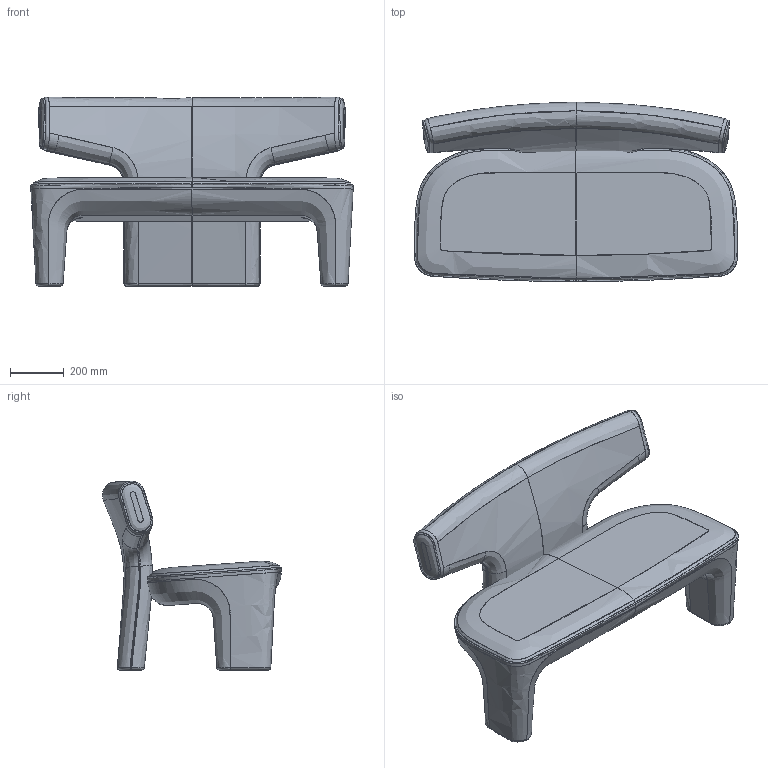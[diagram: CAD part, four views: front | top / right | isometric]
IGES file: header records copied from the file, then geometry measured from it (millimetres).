
Start section: SolidWorks IGES file using analytic representation for surfaces
Global section: file name: C:\Users\market02\Desktop\RYAN\litho modelisation\fait\PierreFrey_Delvigne_Litho_Banquette2\FLIT3CB120_CANAPE BANQUETTE_ARMLESS_LITHO.igs; native system: Rhinoceros ( Dec 14 2021 ); preprocessor: Trout Lake IGES 012 Dec 14 2021; date: 220727.080756; units: millimetre
Bounding box: 1200.6 x 665.93 x 705.54 mm (x, y, z)
Surface area: 2981141.8 mm2 (no closed solid volume)
Topology: 0 solids, 0 shells, 128 faces, 2302 edges, 2258 vertices
Faces by surface type: bspline 128
